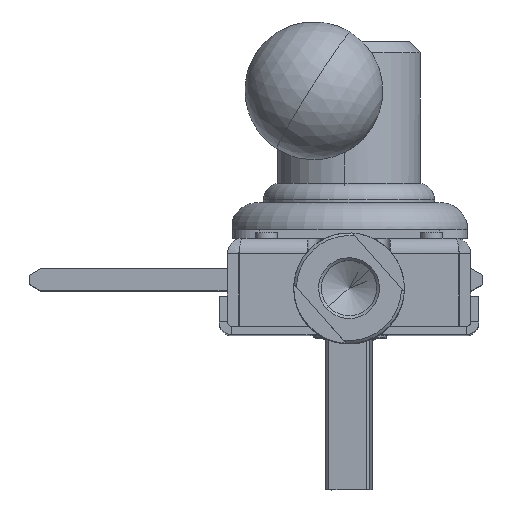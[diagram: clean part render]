
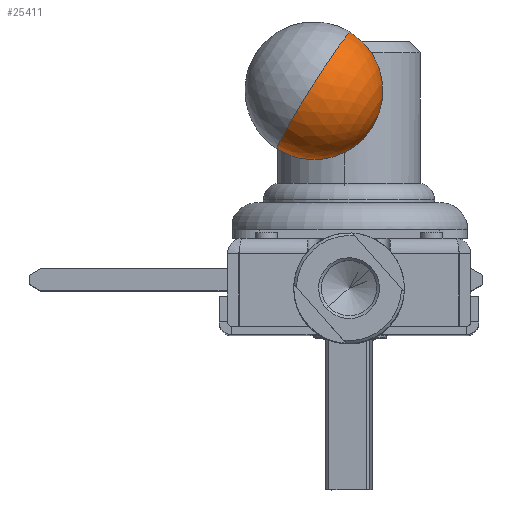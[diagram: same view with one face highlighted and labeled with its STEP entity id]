
A CAD part, top view. The second image highlights one B-rep face of the part: STEP entity #25411.
In plain terms, the highlighted spherical face has radius 12.5 mm.
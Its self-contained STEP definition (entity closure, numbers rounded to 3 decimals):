
#399 = DIRECTION ( 'NONE',  ( -1., 0., 0. ) ) ;
#1393 = CIRCLE ( 'NONE', #6428, 12.5 ) ;
#2635 = ORIENTED_EDGE ( 'NONE', *, *, #18507, .T. ) ;
#3484 = CARTESIAN_POINT ( 'NONE',  ( 0., -10., 0. ) ) ;
#3585 = SPHERICAL_SURFACE ( 'NONE', #13122, 12.5 ) ;
#4489 = ORIENTED_EDGE ( 'NONE', *, *, #14127, .T. ) ;
#6126 = DIRECTION ( 'NONE',  ( -1., 0., 0. ) ) ;
#6284 = DIRECTION ( 'NONE',  ( 1., 0., 0. ) ) ;
#6428 = AXIS2_PLACEMENT_3D ( 'NONE', #31874, #16065, #399 ) ;
#7077 = VERTEX_POINT ( 'NONE', #10979 ) ;
#7225 = CARTESIAN_POINT ( 'NONE',  ( 7.5, -10., 0. ) ) ;
#10316 = DIRECTION ( 'NONE',  ( 0., 0., 1. ) ) ;
#10855 = VERTEX_POINT ( 'NONE', #7225 ) ;
#10979 = CARTESIAN_POINT ( 'NONE',  ( -7.5, -10., 0. ) ) ;
#12242 = CIRCLE ( 'NONE', #32552, 7.5 ) ;
#13122 = AXIS2_PLACEMENT_3D ( 'NONE', #32473, #19320, #6284 ) ;
#14127 = EDGE_CURVE ( 'NONE', #10855, #7077, #12242, .T. ) ;
#14953 = EDGE_LOOP ( 'NONE', ( #4489, #2635, #32354 ) ) ;
#16065 = DIRECTION ( 'NONE',  ( 0., 0., -1. ) ) ;
#18507 = EDGE_CURVE ( 'NONE', #7077, #24799, #1393, .T. ) ;
#19320 = DIRECTION ( 'NONE',  ( 0., 0., -1. ) ) ;
#19566 = AXIS2_PLACEMENT_3D ( 'NONE', #26019, #10316, #28696 ) ;
#21779 = DIRECTION ( 'NONE',  ( 0., 1., 0. ) ) ;
#21865 = CIRCLE ( 'NONE', #19566, 12.5 ) ;
#24799 = VERTEX_POINT ( 'NONE', #27830 ) ;
#25411 = ADVANCED_FACE ( 'NONE', ( #29853 ), #3585, .T. ) ;
#26019 = CARTESIAN_POINT ( 'NONE',  ( 0., 0., 0. ) ) ;
#27830 = CARTESIAN_POINT ( 'NONE',  ( 0., 12.5, 0. ) ) ;
#28611 = EDGE_CURVE ( 'NONE', #10855, #24799, #21865, .T. ) ;
#28696 = DIRECTION ( 'NONE',  ( 1., 0., 0. ) ) ;
#29853 = FACE_OUTER_BOUND ( 'NONE', #14953, .T. ) ;
#31874 = CARTESIAN_POINT ( 'NONE',  ( 0., 0., 0. ) ) ;
#32354 = ORIENTED_EDGE ( 'NONE', *, *, #28611, .F. ) ;
#32473 = CARTESIAN_POINT ( 'NONE',  ( 0., 0., 0. ) ) ;
#32552 = AXIS2_PLACEMENT_3D ( 'NONE', #3484, #21779, #6126 ) ;
